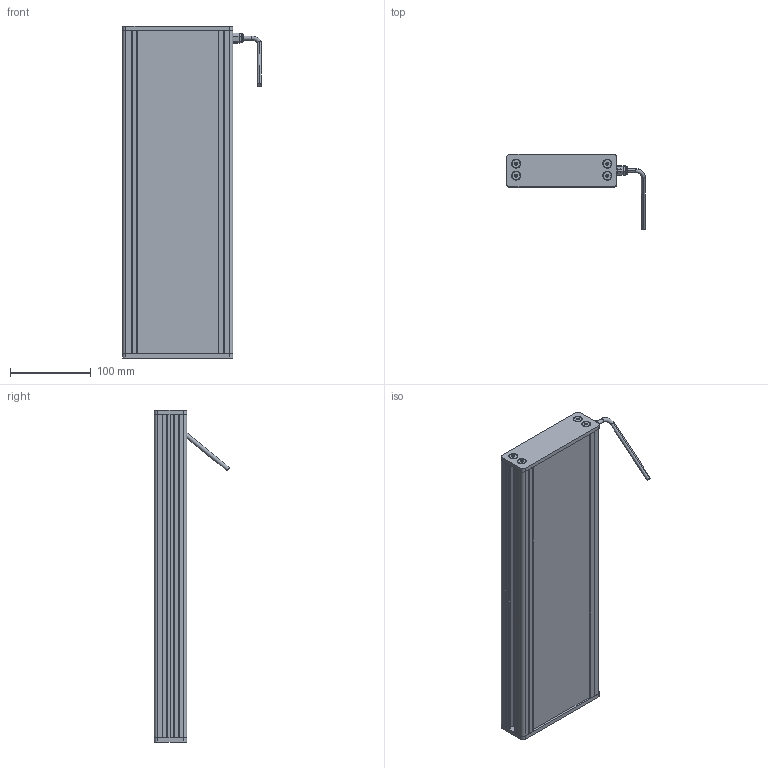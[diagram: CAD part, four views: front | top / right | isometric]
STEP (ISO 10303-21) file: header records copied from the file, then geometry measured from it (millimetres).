
FILE_DESCRIPTION (( 'STEP AP214' ), '1' );
FILE_NAME ('EFFI-BL-100-400T-1M12.STEP', '2021-07-02T08:45:34', ( '' ), ( '' ), 'SwSTEP 2.0', 'SolidWorks 2021', '' );
FILE_SCHEMA (( 'AUTOMOTIVE_DESIGN' ));
Length unit declared in the file: millimetre
Products named in the file (8): 003776; bord fin modif_lg 436.5 mm; profile modif_lg 99.5 mm; EFFI-BL-100-400T-1M12; Pièce2^EFFI-BL-XXX-YYYT + M12; cordon_Avec cable
Assembly tree (14 placements, depth 2):
  EFFI-BL-100-400T-1M12
    bord fin modif_lg 436.5 mm  x2
    profile modif_lg 99.5 mm
    Pièce2^EFFI-BL-XXX-YYYT + M12
    profile modif_lg 99.5 mm
    003776  x7
    003776
    cordon_Avec cable
Bounding box: 171.15 x 92.99 x 410 mm (x, y, z)
Volume: 1919493.9 mm3; surface area: 263101.5 mm2
Topology: 13 solids, 19 shells, 592 faces, 1498 edges, 959 vertices
Faces by surface type: plane 335, bspline 131, cylinder 97, cone 19, torus 10
Entity records: 17147 total; most frequent: CARTESIAN_POINT 5464, ORIENTED_EDGE 2224, DIRECTION 1942, EDGE_CURVE 1116, LINE 808, VECTOR 808, VERTEX_POINT 733, AXIS2_PLACEMENT_3D 567
